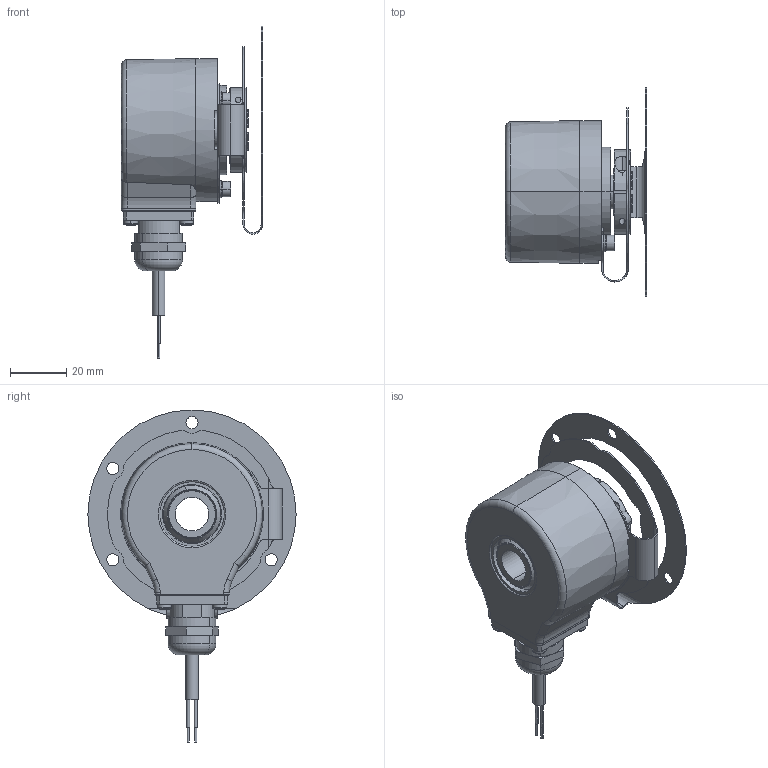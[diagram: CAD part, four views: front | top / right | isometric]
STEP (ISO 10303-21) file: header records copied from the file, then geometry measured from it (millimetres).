
FILE_DESCRIPTION (( 'STEP AP214' ), '1' );
FILE_NAME ('5020.85X1.XXXX.STEP', '2007-06-18T09:40:44', ( 'DanneckerS' ), ( ' ' ), 'SwSTEP 2.0', 'SolidWorks 2007', '' );
FILE_SCHEMA (( 'AUTOMOTIVE_DESIGN' ));
Length unit declared in the file: millimetre
Products named in the file (1): 5020.85X1.XXXX
Bounding box: 50.2 x 74 x 118 mm (x, y, z)
Surface area: 25589 mm2 (no closed solid volume)
Topology: 0 solids, 21 shells, 380 faces, 1094 edges, 726 vertices
Faces by surface type: plane 148, cylinder 145, cone 49, torus 26, sphere 8, bspline 4
Entity records: 17179 total; most frequent: CARTESIAN_POINT 2870, DIRECTION 2247, ORIENTED_EDGE 1949, EDGE_CURVE 1090, AXIS2_PLACEMENT_3D 879, VERTEX_POINT 726, CIRCLE 502, VECTOR 489
